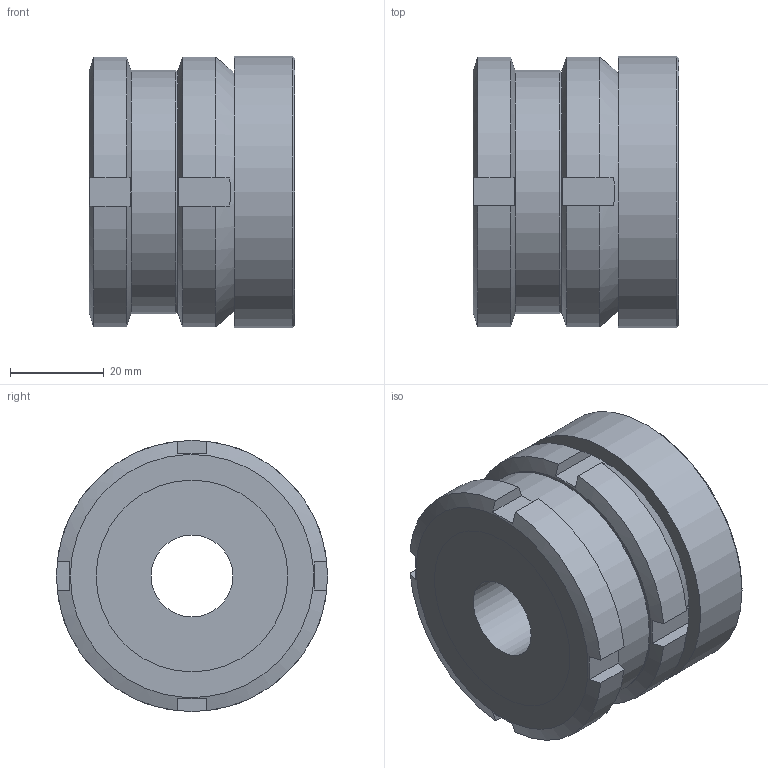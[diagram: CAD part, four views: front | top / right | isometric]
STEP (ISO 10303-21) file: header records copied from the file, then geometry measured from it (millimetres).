
FILE_DESCRIPTION( ( 'STEP AP203' ), '1' );
FILE_NAME( 'C:/Temp/Ganter_Step_05_03_2020/data/3_2/gn350_2/gn_350_2_ni/Stainless Steel-Levelling set GN 350.2-58-17,5-44-NI (0-0).stp', '2020-03-13T05:28:11', ( 'License CC BY-ND 4.0' ), ( 'CADENAS' ), ' ', 'PARTsolutions', ' ' );
FILE_SCHEMA( ( 'CONFIG_CONTROL_DESIGN' ) );
Length unit declared in the file: millimetre
Products named in the file (4): Stainless Steel-Levelling set GN 350.2-58-17,5-44-NI (0-0); _Levelling set GN 350.2-58-17,5-44-ST-G; _Levelling set GN 350.2-58-17,5-44-ST-K; _Levelling set GN 350.2-58-17,5-44-ST-P(0)
Assembly tree (3 placements, depth 2):
  Stainless Steel-Levelling set GN 350.2-58-17,5-44-NI (0-0)
    _Levelling set GN 350.2-58-17,5-44-ST-G
    _Levelling set GN 350.2-58-17,5-44-ST-K
    _Levelling set GN 350.2-58-17,5-44-ST-P(0)
Bounding box: 44 x 58 x 58 mm (x, y, z)
Volume: 94969.9 mm3; surface area: 27751.1 mm2
Topology: 3 solids, 3 shells, 62 faces, 149 edges, 99 vertices
Faces by surface type: plane 36, cylinder 19, cone 5, sphere 2
Full cylindrical faces by diameter (mm): 17.5 x1, 31.5 x1, 33.485 x1, 34.5 x1, 38.376 x1, 39 x1, 40 x1, 41 x2, 52 x1, 58 x1
Entity records: 1925 total; most frequent: CARTESIAN_POINT 462, DIRECTION 276, ORIENTED_EDGE 248, EDGE_CURVE 124, AXIS2_PLACEMENT_3D 122, EDGE_LOOP 92, VERTEX_POINT 92, FACE_OUTER_BOUND 75
